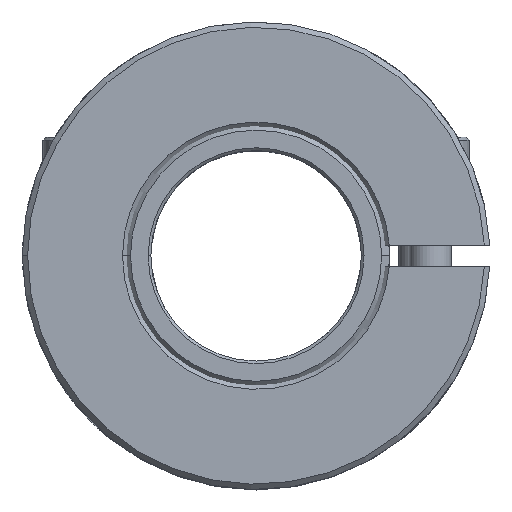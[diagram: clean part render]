
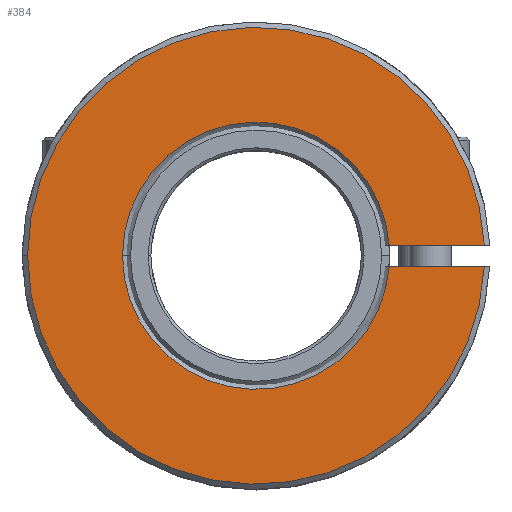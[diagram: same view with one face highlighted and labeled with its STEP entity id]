
A CAD part, top view. The second image highlights one B-rep face of the part: STEP entity #384.
In plain terms, the highlighted planar face has unit normal (0, 0, 1).
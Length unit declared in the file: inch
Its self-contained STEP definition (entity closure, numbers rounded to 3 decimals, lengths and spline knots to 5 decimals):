
#384 = ADVANCED_FACE( '', ( #647 ), #648, .T. );
#647 = FACE_OUTER_BOUND( '', #917, .T. );
#648 = PLANE( '', #918 );
#917 = EDGE_LOOP( '', ( #1845, #1846, #1847, #1848, #1849, #1850 ) );
#918 = AXIS2_PLACEMENT_3D( '', #1851, #1852, #1853 );
#1845 = ORIENTED_EDGE( '', *, *, #2191, .T. );
#1846 = ORIENTED_EDGE( '', *, *, #2193, .F. );
#1847 = ORIENTED_EDGE( '', *, *, #2146, .F. );
#1848 = ORIENTED_EDGE( '', *, *, #2183, .T. );
#1849 = ORIENTED_EDGE( '', *, *, #2192, .F. );
#1850 = ORIENTED_EDGE( '', *, *, #2162, .F. );
#1851 = CARTESIAN_POINT( '', ( 0., 0., 0.471 ) );
#1852 = DIRECTION( '', ( 0., 0., 1. ) );
#1853 = DIRECTION( '', ( 1., 0., 0. ) );
#2146 = EDGE_CURVE( '', #2603, #2599, #2605, .T. );
#2162 = EDGE_CURVE( '', #2633, #2629, #2635, .T. );
#2183 = EDGE_CURVE( '', #2603, #2666, #2668, .T. );
#2191 = EDGE_CURVE( '', #2633, #2679, #2681, .T. );
#2192 = EDGE_CURVE( '', #2629, #2666, #2682, .T. );
#2193 = EDGE_CURVE( '', #2599, #2679, #2683, .T. );
#2599 = VERTEX_POINT( '', #3384 );
#2603 = VERTEX_POINT( '', #3389 );
#2605 = CIRCLE( '', #3393, 0.25 );
#2629 = VERTEX_POINT( '', #3440 );
#2633 = VERTEX_POINT( '', #3445 );
#2635 = CIRCLE( '', #3448, 0.4275 );
#2666 = VERTEX_POINT( '', #3526 );
#2668 = LINE( '', #3529, #3530 );
#2679 = VERTEX_POINT( '', #3548 );
#2681 = LINE( '', #3552, #3553 );
#2682 = CIRCLE( '', #3554, 0.4275 );
#2683 = CIRCLE( '', #3555, 0.25 );
#3384 = CARTESIAN_POINT( '', ( -0.25, 0., 0.471 ) );
#3389 = CARTESIAN_POINT( '', ( 0.2492, 0.02, 0.471 ) );
#3393 = AXIS2_PLACEMENT_3D( '', #3972, #3973, #3974 );
#3440 = CARTESIAN_POINT( '', ( -0.4275, 0., 0.471 ) );
#3445 = CARTESIAN_POINT( '', ( 0.42703, -0.02, 0.471 ) );
#3448 = AXIS2_PLACEMENT_3D( '', #4000, #4001, #4002 );
#3526 = CARTESIAN_POINT( '', ( 0.42703, 0.02, 0.471 ) );
#3529 = CARTESIAN_POINT( '', ( 0.69551, 0.02, 0.471 ) );
#3530 = VECTOR( '', #4037, 1. );
#3548 = CARTESIAN_POINT( '', ( 0.2492, -0.02, 0.471 ) );
#3552 = CARTESIAN_POINT( '', ( 0., -0.02, 0.471 ) );
#3553 = VECTOR( '', #4043, 1. );
#3554 = AXIS2_PLACEMENT_3D( '', #4044, #4045, #4046 );
#3555 = AXIS2_PLACEMENT_3D( '', #4047, #4048, #4049 );
#3972 = CARTESIAN_POINT( '', ( 0., 0., 0.471 ) );
#3973 = DIRECTION( '', ( 0., 0., 1. ) );
#3974 = DIRECTION( '', ( -1., 0., 0. ) );
#4000 = CARTESIAN_POINT( '', ( 0., 0., 0.471 ) );
#4001 = DIRECTION( '', ( 0., 0., -1. ) );
#4002 = DIRECTION( '', ( -1., 0., 0. ) );
#4037 = DIRECTION( '', ( 1., 0., 0. ) );
#4043 = DIRECTION( '', ( -1., 0., 0. ) );
#4044 = CARTESIAN_POINT( '', ( 0., 0., 0.471 ) );
#4045 = DIRECTION( '', ( 0., 0., -1. ) );
#4046 = DIRECTION( '', ( -1., 0., 0. ) );
#4047 = CARTESIAN_POINT( '', ( 0., 0., 0.471 ) );
#4048 = DIRECTION( '', ( 0., 0., 1. ) );
#4049 = DIRECTION( '', ( -1., 0., 0. ) );
